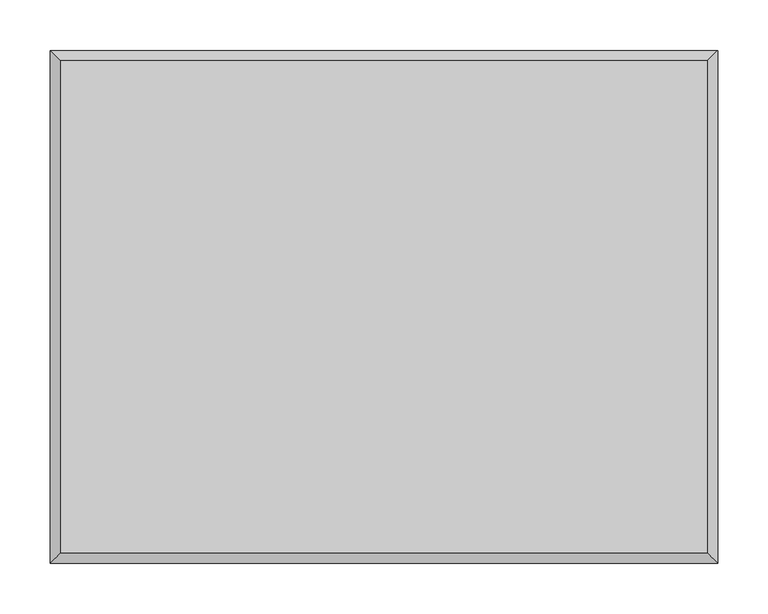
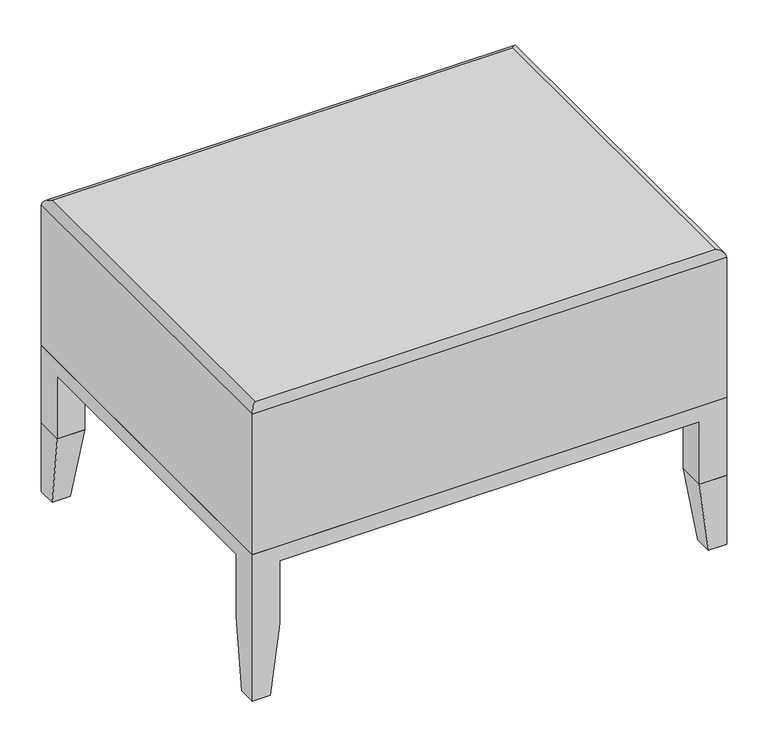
"""IFC4 building model written with IfcOpenShell, lengths in millimetres: furniture geometry, Coalesse_AM_Seating_Ottoman_Passerelle : 20D x 26W."""

from ifc_helpers import new_model, si_unit, frame, origin, place, context, project, spatial, ellipse_curve, faceted_brep, source, transform, mapped, element, save
from ifc_brep_helpers import plane_surface, cylinder_surface, advanced_brep


def furniture_3766e529(model_context):
    return source(origin(), model_context, "Body", "SolidModel", [
        advanced_brep(
        [(-663.917922, -296.5474749, 422.1580675), (-663.917922, -296.5474749, 215.8999939), (-3.517922, -296.5474749, 215.8999939), (-3.517922, -296.5474749, 422.1580675), (-13.1598424, -286.9055545, 431.7999879), (-654.2760016, -286.9055545, 431.7999879), (-3.517922, 211.4525251, 215.8999939), (-3.517922, 211.4525251, 422.1580675), (-13.1598424, 201.8106047, 431.7999879), (-663.917922, 211.4525251, 215.8999939), (-663.917922, 211.4525251, 422.1580675), (-654.2760016, 201.8106047, 431.7999879)],
        [
            (0, 1),
            (1, 2),
            (2, 3),
            (3, 0),
            (3, 4, ellipse_curve(frame((-13.1598424, -286.9055545, 422.1580675), z_axis=(-0.7071067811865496, -0.7071067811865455, 0.0), x_axis=(-0.7071067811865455, 0.7071067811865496, 0.0)), 13.6357346, 9.6419204)),
            (4, 5),
            (5, 0, ellipse_curve(frame((-654.2760016, -286.9055545, 422.1580675), z_axis=(0.7071067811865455, -0.7071067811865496, 0.0), x_axis=(-0.7071067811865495, -0.7071067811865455, 0.0)), 13.6357346, 9.6419204)),
            (2, 6),
            (6, 7),
            (7, 3),
            (7, 8, ellipse_curve(frame((-13.1598424, 201.8106047, 422.1580675), z_axis=(0.7071067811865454, -0.7071067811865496, 0.0), x_axis=(-0.7071067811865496, -0.7071067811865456, 0.0)), 13.6357346, 9.6419204)),
            (8, 4),
            (6, 9),
            (9, 10),
            (10, 7),
            (10, 11, ellipse_curve(frame((-654.2760016, 201.8106047, 422.1580675), z_axis=(0.7071067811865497, 0.7071067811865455, 0.0), x_axis=(0.7071067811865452, -0.7071067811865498, 0.0)), 13.6357346, 9.6419204)),
            (11, 8),
            (0, 10),
            (9, 1),
            (5, 11),
        ],
        [
            plane_surface(frame((-663.917922, -296.5474749, 215.8999939), z_axis=(0.0, -1.0, 0.0), x_axis=(1.0, 0.0, 0.0))),
            cylinder_surface(frame((-651.217922, -286.9055545, 422.1580675), z_axis=(-1.0, 0.0, 0.0), x_axis=(0.0, 1.0, 0.0)), 9.6419204),
            plane_surface(frame((-3.517922, -296.5474749, 215.8999939), z_axis=(1.0, 0.0, 0.0), x_axis=(0.0, 1.0, 0.0))),
            cylinder_surface(frame((-13.1598424, -283.8474749, 422.1580675), z_axis=(0.0, -1.0, 0.0), x_axis=(-1.0, 0.0, 0.0)), 9.6419204),
            plane_surface(frame((-3.517922, 211.4525251, 215.8999939), z_axis=(0.0, 1.0, 0.0), x_axis=(-1.0, 0.0, 0.0))),
            cylinder_surface(frame((-16.217922, 201.8106047, 422.1580675), z_axis=(1.0, 0.0, 0.0), x_axis=(0.0, -1.0, 0.0)), 9.6419204),
            plane_surface(frame((-663.917922, 211.4525251, 215.8999939), z_axis=(-1.0, 0.0, 0.0), x_axis=(0.0, -1.0, 0.0))),
            cylinder_surface(frame((-654.2760016, 198.7525251, 422.1580675), z_axis=(0.0, 1.0, 0.0), x_axis=(1.0, 0.0, 0.0)), 9.6419204),
            plane_surface(frame((-654.2760016, 201.8106047, 431.7999879), z_axis=(0.0, 0.0, 1.0), x_axis=(0.0, -1.0, 0.0))),
            plane_surface(frame((-651.217922, 198.7525251, 215.8999939), z_axis=(0.0, 0.0, -1.0), x_axis=(0.0, -1.0, 0.0))),
        ],
        [
            (0, [[1, 2, 3, 4]]),
            (1, [[-4, 5, 6, 7]]),
            (2, [[-3, 8, 9, 10]]),
            (3, [[-5, -10, 11, 12]]),
            (4, [[-9, 13, 14, 15]]),
            (5, [[-11, -15, 16, 17]]),
            (6, [[-1, 18, -14, 19]]),
            (7, [[-7, 20, -16, -18]]),
            (8, [[-6, -12, -17, -20]]),
            (9, [[-2, -19, -13, -8]]),
        ],
    ),
        faceted_brep([(-638.517922, -271.1474742, 0.0), (-638.517922, -296.5474749, 0.0), (-663.917922, -296.5474749, 0.0), (-663.917922, -271.1474742, 0.0), (-625.8179341, -258.4474749, 101.600003), (-625.8179341, -296.5474749, 101.600003), (-625.8179341, -296.5474749, 193.2939939), (-41.6179099, -296.5474749, 193.2939939), (-41.6179099, -296.5474749, 101.600003), (-3.517922, -296.5474749, 101.600003), (-3.517922, -296.5474749, 215.8999939), (-663.917922, -296.5474749, 215.8999939), (-663.917922, 211.4525251, 215.8999939), (-663.917922, 211.4525251, 101.600003), (-663.917922, 173.3525251, 101.600003), (-663.917922, 173.3525251, 193.2939939), (-663.917922, -258.4474749, 193.2939939), (-663.917922, -258.4474749, 101.600003), (-3.517922, 211.4525251, 215.8999939), (-41.6179099, 173.3525251, 215.8999939), (-41.6179099, -258.4474749, 215.8999939), (-625.8179341, -258.4474749, 215.8999939), (-625.8179341, 173.3525251, 215.8999939), (-625.8179341, 211.4525251, 101.600003), (-625.8179341, 173.3525251, 101.600003), (-3.517922, 211.4525251, 101.600003), (-3.517922, 173.3525251, 101.600003), (-41.6179099, 173.3525251, 101.600003), (-41.6179099, 211.4525251, 101.600003), (-3.517922, -258.4474749, 101.600003), (-41.6179099, -258.4474749, 101.600003), (-625.8179341, 173.3525251, 193.2939939), (-625.8179341, 211.4525251, 193.2939939), (-41.6179099, 211.4525251, 193.2939939), (-41.6179099, 173.3525251, 193.2939939), (-3.517922, 173.3525251, 193.2939939), (-3.517922, -258.4474749, 193.2939939), (-625.8179341, -258.4474749, 193.2939939), (-41.6179099, -258.4474749, 193.2939939)], [[[0, 1, 2, 3]], [[1, 0, 4, 5]], [[2, 1, 5, 6, 7, 8, 9, 10, 11]], [[3, 2, 11, 12, 13, 14, 15, 16, 17]], [[0, 3, 17, 4]], [[12, 11, 10, 18], [19, 20, 21, 22]], [[14, 13, 23, 24]], [[25, 26, 27, 28]], [[29, 9, 8, 30]], [[14, 24, 31, 15]], [[24, 23, 32, 31]], [[13, 12, 18, 25, 28, 33, 32, 23]], [[28, 27, 34, 33]], [[27, 26, 35, 34]], [[25, 18, 10, 9, 29, 36, 35, 26]], [[5, 4, 37, 6]], [[4, 17, 16, 37]], [[29, 30, 38, 36]], [[30, 8, 7, 38]], [[34, 31, 32, 33]], [[31, 37, 16, 15]], [[37, 38, 7, 6]], [[38, 34, 35, 36]], [[20, 19, 34, 38]], [[21, 20, 38, 37]], [[22, 21, 37, 31]], [[19, 22, 31, 34]]]),
        faceted_brep([(-28.917922, -271.1474742, 0.0), (-3.517922, -271.1474742, 0.0), (-3.517922, -296.5474749, 0.0), (-28.917922, -296.5474749, 0.0), (-41.6179099, -258.4474749, 101.600003), (-41.6179099, -296.5474749, 101.600003), (-3.517922, -296.5474749, 101.600003), (-3.517922, -258.4474749, 101.600003)], [[[0, 1, 2, 3]], [[4, 5, 6, 7]], [[4, 7, 1, 0]], [[7, 6, 2, 1]], [[6, 5, 3, 2]], [[5, 4, 0, 3]]]),
        faceted_brep([(-28.917922, 211.4525251, 0.0), (-3.517922, 211.4525251, 0.0), (-3.517922, 186.052513, 0.0), (-28.917922, 186.052513, 0.0), (-41.6179099, 211.4525251, 101.600003), (-41.6179099, 173.3525251, 101.600003), (-3.517922, 173.3525251, 101.600003), (-3.517922, 211.4525251, 101.600003)], [[[0, 1, 2, 3]], [[4, 5, 6, 7]], [[4, 7, 1, 0]], [[7, 6, 2, 1]], [[6, 5, 3, 2]], [[5, 4, 0, 3]]]),
        faceted_brep([(-638.517922, 211.4525251, 0.0), (-638.517922, 186.052513, 0.0), (-663.917922, 186.052513, 0.0), (-663.917922, 211.4525251, 0.0), (-625.8179341, 211.4525251, 101.600003), (-663.917922, 211.4525251, 101.600003), (-663.917922, 173.3525251, 101.600003), (-625.8179341, 173.3525251, 101.600003)], [[[0, 1, 2, 3]], [[4, 5, 6, 7]], [[4, 7, 1, 0]], [[7, 6, 2, 1]], [[6, 5, 3, 2]], [[5, 4, 0, 3]]]),
    ])


if __name__ == "__main__":
    model = new_model("IFC4")
    model_context = context("Model", 3, world=origin())
    ifc_project = project(units=[si_unit("LENGTHUNIT", "METRE", prefix="MILLI")], contexts=[model_context])
    site = spatial("IfcSite", under=ifc_project)
    building = spatial("IfcBuilding", under=site)
    placement = place(None, origin())
    furniture_shape = furniture_3766e529(model_context)
    element("IfcFurniture", 1, ObjectType="Coalesse_AM_Seating_Ottoman_Passerelle : 20D x 26W", at=placement, inside=building, context=model_context, shape_type="MappedRepresentation", body=[
        mapped(furniture_shape, transform((0.0, 0.0, 0.0), x_axis=(1.0, 0.0, 0.0), y_axis=(0.0, 1.0, 0.0), z_axis=(0.0, 0.0, 1.0))),
    ])
    save(model, "model.ifc")
